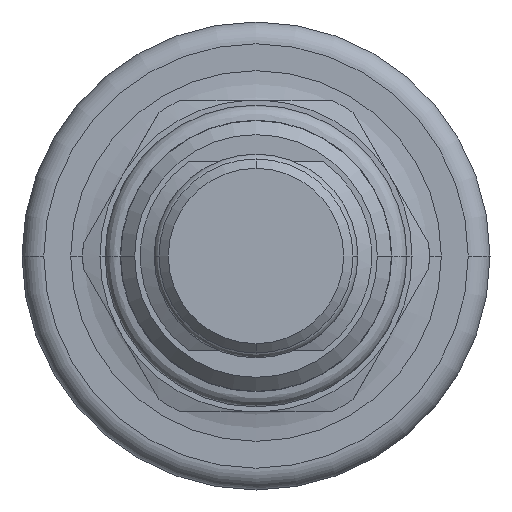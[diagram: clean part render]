
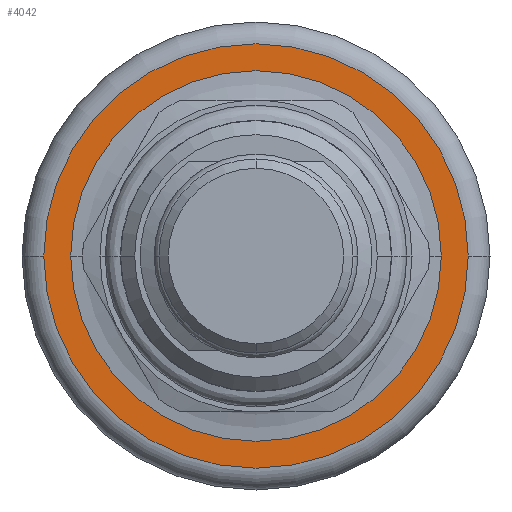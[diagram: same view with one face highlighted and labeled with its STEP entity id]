
A CAD part, front view. The second image highlights one B-rep face of the part: STEP entity #4042.
In plain terms, the highlighted planar face has unit normal (0, -1, 0).
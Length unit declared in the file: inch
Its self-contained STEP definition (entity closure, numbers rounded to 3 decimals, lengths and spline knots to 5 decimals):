
#1698=CARTESIAN_POINT('',(0.,3.2105,0.));
#1699=DIRECTION('',(0.,1.,0.));
#1700=DIRECTION('',(1.,0.,0.));
#1701=AXIS2_PLACEMENT_3D('',#1698,#1699,#1700);
#1703=CARTESIAN_POINT('',(0.,3.2105,0.));
#1704=DIRECTION('',(0.,-1.,0.));
#1705=DIRECTION('',(1.,0.,0.));
#1706=AXIS2_PLACEMENT_3D('',#1703,#1704,#1705);
#1708=CARTESIAN_POINT('',(0.,3.2105,0.));
#1709=DIRECTION('',(0.,-1.,0.));
#1710=DIRECTION('',(1.,0.,0.));
#1711=AXIS2_PLACEMENT_3D('',#1708,#1709,#1710);
#1723=CARTESIAN_POINT('',(0.,3.2105,0.));
#1724=DIRECTION('',(0.,1.,0.));
#1725=DIRECTION('',(1.,0.,0.));
#1726=AXIS2_PLACEMENT_3D('',#1723,#1724,#1725);
#2285=CARTESIAN_POINT('',(0.59375,3.2105,0.));
#2286=VERTEX_POINT('',#2285);
#2287=CARTESIAN_POINT('',(0.68,3.2105,0.));
#2289=VERTEX_POINT('',#2287);
#2297=CARTESIAN_POINT('',(-0.59375,3.2105,0.));
#2298=VERTEX_POINT('',#2297);
#2299=CARTESIAN_POINT('',(-0.68,3.2105,0.));
#2301=VERTEX_POINT('',#2299);
#4027=CARTESIAN_POINT('',(0.,3.2105,0.));
#4028=DIRECTION('',(0.,-1.,0.));
#4029=DIRECTION('',(-1.,0.,0.));
#4030=AXIS2_PLACEMENT_3D('',#4027,#4028,#4029);
#4031=PLANE('',#4030);
#4033=ORIENTED_EDGE('',*,*,#4032,.F.);
#4035=ORIENTED_EDGE('',*,*,#4034,.T.);
#4036=EDGE_LOOP('',(#4033,#4035));
#4037=FACE_OUTER_BOUND('',#4036,.F.);
#4038=ORIENTED_EDGE('',*,*,#4020,.F.);
#4039=ORIENTED_EDGE('',*,*,#4009,.T.);
#4040=EDGE_LOOP('',(#4038,#4039));
#4041=FACE_BOUND('',#4040,.F.);
#4042=ADVANCED_FACE('',(#4037,#4041),#4031,.T.);
#1702=CIRCLE('',#1701,0.59375);
#1707=CIRCLE('',#1706,0.59375);
#1712=CIRCLE('',#1711,0.68);
#1727=CIRCLE('',#1726,0.68);
#4009=EDGE_CURVE('',#2286,#2298,#1707,.T.);
#4020=EDGE_CURVE('',#2286,#2298,#1702,.T.);
#4032=EDGE_CURVE('',#2289,#2301,#1712,.T.);
#4034=EDGE_CURVE('',#2289,#2301,#1727,.T.);
